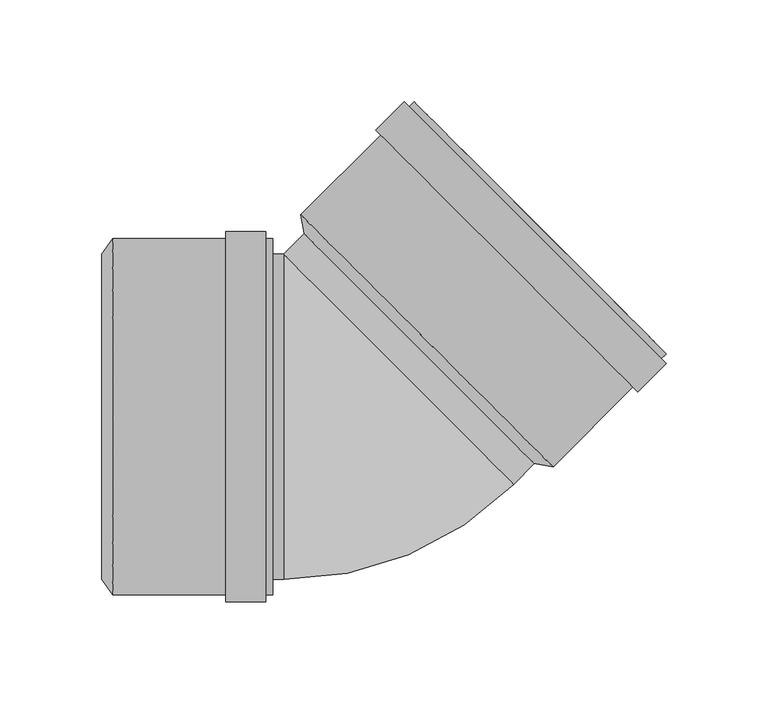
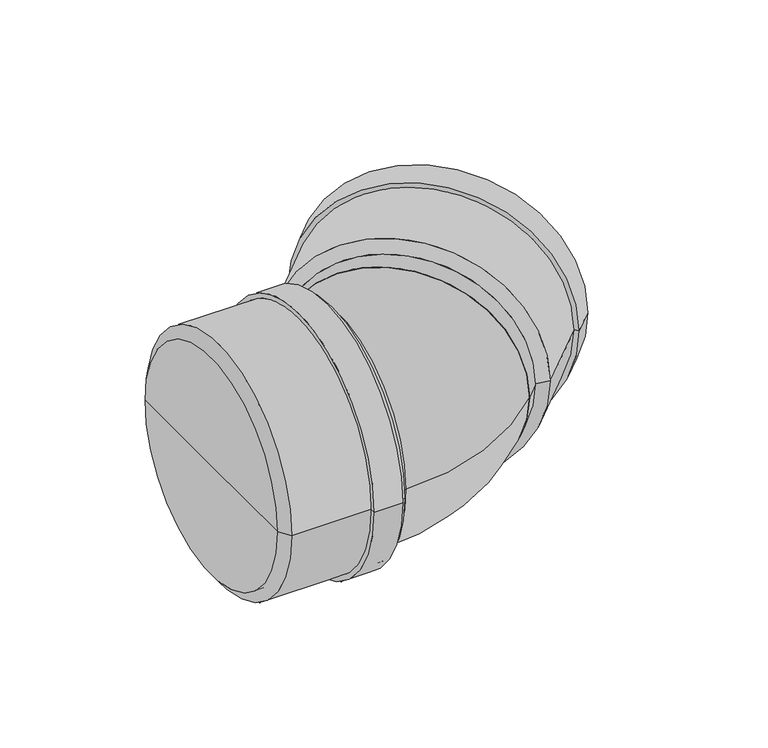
"""IFC4 building model written with IfcOpenShell, lengths in millimetres: pipe fitting geometry, pf_KGB : pf_KGB."""

from ifc_helpers import new_model, si_unit, point, frame, origin, origin_2d, place, context, project, spatial, polyline, circle_curve, ellipse_curve, trimmed, segment, composite_curve, outline, extrude, source, transform, mapped, element, save
from ifc_brep_helpers import plane_surface, cylinder_surface, revolved_surface, advanced_brep


def pipe_fitting_99fc2559(model_context):
    return source(origin(), model_context, "Body", "SolidModel", [
        advanced_brep(
        [(90.0854039, -23.0516811, 0.0), (-23.0516811, 90.0854039, 0.0), (-24.607316, 99.2777921, 0.0), (99.2777921, -24.607316, 0.0), (33.5168614, 33.5168614, 0.0), (154.8563851, 30.971277, 0.0), (30.971277, 154.8563851, 0.0), (36.3452886, 149.4823735, 0.0), (149.4823735, 36.3452886, 0.0), (28.567114, 152.452222, 0.0), (152.452222, 28.567114, 0.0), (26.1629509, 154.8563851, 0.0), (154.8563851, 26.1629509, 0.0), (12.2329473, 140.9263815, 0.0), (140.9263815, 12.2329473, 0.0), (14.6371104, 138.5222184, 0.0), (138.5222184, 14.6371104, 0.0), (93.9037805, -19.2333044, 0.0), (-19.2333044, 93.9037805, 0.0), (37.335238, 37.335238, 0.0)],
        [
            (0, 1, circle_curve(frame((33.5168614, 33.5168614, 0.0), z_axis=(0.7071067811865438, 0.7071067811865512, 0.0), x_axis=(-0.7071067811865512, 0.7071067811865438, 0.0)), 80.0)),
            (1, 2),
            (2, 3, circle_curve(frame((37.335238, 37.335238, 0.0), z_axis=(-0.7071067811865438, -0.7071067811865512, 0.0), x_axis=(-0.7071067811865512, 0.7071067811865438, 0.0)), 87.6)),
            (3, 0),
            (1, 0, circle_curve(frame((33.5168614, 33.5168614, 0.0), z_axis=(0.7071067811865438, 0.7071067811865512, 0.0), x_axis=(-0.7071067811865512, 0.7071067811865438, 0.0)), 80.0)),
            (3, 2, circle_curve(frame((37.335238, 37.335238, 0.0), z_axis=(-0.7071067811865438, -0.7071067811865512, 0.0), x_axis=(-0.7071067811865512, 0.7071067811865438, 0.0)), 87.6)),
            (4, 1),
            (0, 4),
            (5, 6, circle_curve(frame((92.913831, 92.913831, 0.0), z_axis=(0.7071067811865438, 0.7071067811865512, 0.0), x_axis=(-0.7071067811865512, 0.7071067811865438, 0.0)), 87.6)),
            (6, 7),
            (7, 8, circle_curve(frame((92.913831, 92.913831, 0.0), z_axis=(-0.7071067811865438, -0.7071067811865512, 0.0), x_axis=(-0.7071067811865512, 0.7071067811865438, 0.0)), 80.0)),
            (8, 5),
            (9, 10, circle_curve(frame((90.509668, 90.509668, 0.0), z_axis=(0.7071067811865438, 0.7071067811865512, 0.0), x_axis=(-0.7071067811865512, 0.7071067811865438, 0.0)), 87.6)),
            (10, 5),
            (5, 6, circle_curve(frame((92.913831, 92.913831, 0.0), z_axis=(-0.7071067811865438, -0.7071067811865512, 0.0), x_axis=(-0.7071067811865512, 0.7071067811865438, 0.0)), 87.6)),
            (6, 9),
            (11, 12, circle_curve(frame((90.509668, 90.509668, 0.0), z_axis=(0.7071067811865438, 0.7071067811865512, 0.0), x_axis=(-0.7071067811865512, 0.7071067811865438, 0.0)), 91.0)),
            (12, 10),
            (9, 11),
            (13, 14, circle_curve(frame((76.5796644, 76.5796644, 0.0), z_axis=(0.7071067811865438, 0.7071067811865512, 0.0), x_axis=(-0.7071067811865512, 0.7071067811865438, 0.0)), 91.0)),
            (14, 12),
            (11, 13),
            (15, 16, circle_curve(frame((76.5796644, 76.5796644, 0.0), z_axis=(0.7071067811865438, 0.7071067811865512, 0.0), x_axis=(-0.7071067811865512, 0.7071067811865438, 0.0)), 87.6)),
            (16, 14),
            (13, 15),
            (8, 7, circle_curve(frame((92.913831, 92.913831, 0.0), z_axis=(-0.7071067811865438, -0.7071067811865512, 0.0), x_axis=(-0.7071067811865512, 0.7071067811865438, 0.0)), 80.0)),
            (10, 9, circle_curve(frame((90.509668, 90.509668, 0.0), z_axis=(0.7071067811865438, 0.7071067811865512, 0.0), x_axis=(-0.7071067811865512, 0.7071067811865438, 0.0)), 87.6)),
            (12, 11, circle_curve(frame((90.509668, 90.509668, 0.0), z_axis=(0.7071067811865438, 0.7071067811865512, 0.0), x_axis=(-0.7071067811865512, 0.7071067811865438, 0.0)), 91.0)),
            (14, 13, circle_curve(frame((76.5796644, 76.5796644, 0.0), z_axis=(0.7071067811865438, 0.7071067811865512, 0.0), x_axis=(-0.7071067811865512, 0.7071067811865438, 0.0)), 91.0)),
            (16, 15, circle_curve(frame((76.5796644, 76.5796644, 0.0), z_axis=(0.7071067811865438, 0.7071067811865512, 0.0), x_axis=(-0.7071067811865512, 0.7071067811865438, 0.0)), 87.6)),
            (2, 15),
            (16, 3),
            (17, 18, circle_curve(frame((37.335238, 37.335238, 0.0), z_axis=(0.7071067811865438, 0.7071067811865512, 0.0), x_axis=(-0.7071067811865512, 0.7071067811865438, 0.0)), 80.0)),
            (18, 19),
            (19, 17),
            (18, 17, circle_curve(frame((37.335238, 37.335238, 0.0), z_axis=(0.7071067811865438, 0.7071067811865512, 0.0), x_axis=(-0.7071067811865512, 0.7071067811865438, 0.0)), 80.0)),
            (7, 18),
            (17, 8),
        ],
        [
            revolved_surface(polyline([(-24.607316, 99.2777921, 0.0), (-23.0516811, 90.0854039, 0.0)]), (33.5168614, 33.5168614, 0.0), (-0.7071067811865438, -0.7071067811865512, 0.0)),
            plane_surface(frame((33.5168614, 33.5168614, 0.0), z_axis=(-0.7071067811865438, -0.7071067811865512, 0.0), x_axis=(-0.7071067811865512, 0.7071067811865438, 0.0))),
            plane_surface(frame((92.913831, 92.913831, 0.0), z_axis=(0.7071067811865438, 0.7071067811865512, 0.0), x_axis=(-0.7071067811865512, 0.7071067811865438, 0.0))),
            cylinder_surface(frame((33.5168614, 33.5168614, 0.0), z_axis=(-0.7071067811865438, -0.7071067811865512, 0.0), x_axis=(-0.7071067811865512, 0.7071067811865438, 0.0)), 87.6),
            plane_surface(frame((90.509668, 90.509668, 0.0), z_axis=(0.7071067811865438, 0.7071067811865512, 0.0), x_axis=(-0.7071067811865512, 0.7071067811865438, 0.0))),
            cylinder_surface(frame((33.5168614, 33.5168614, 0.0), z_axis=(-0.7071067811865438, -0.7071067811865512, 0.0), x_axis=(-0.7071067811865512, 0.7071067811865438, 0.0)), 91.0),
            plane_surface(frame((76.5796644, 76.5796644, 0.0), z_axis=(-0.7071067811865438, -0.7071067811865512, 0.0), x_axis=(-0.7071067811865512, 0.7071067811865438, 0.0))),
            plane_surface(frame((37.335238, 37.335238, 0.0), z_axis=(0.7071067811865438, 0.7071067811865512, 0.0), x_axis=(-0.7071067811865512, 0.7071067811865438, 0.0))),
            revolved_surface(polyline([(-19.233304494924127, 93.90378049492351, 0.0), (36.345288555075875, 149.4823735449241, 0.0)]), (33.5168614, 33.5168614, 0.0), (-0.7071067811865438, -0.7071067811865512, 0.0)),
        ],
        [
            (0, [[1, 2, 3, 4]]),
            (0, [[5, -4, 6, -2]]),
            (1, [[7, -1, 8]]),
            (1, [[-8, -5, -7]]),
            (2, [[9, 10, 11, 12]]),
            (3, [[13, 14, 15, 16]]),
            (4, [[17, 18, -13, 19]]),
            (5, [[20, 21, -17, 22]]),
            (6, [[23, 24, -20, 25]]),
            (2, [[-15, -12, 26, -10]]),
            (3, [[27, -16, -9, -14]]),
            (4, [[28, -19, -27, -18]]),
            (5, [[29, -22, -28, -21]]),
            (6, [[30, -25, -29, -24]]),
            (3, [[-3, 31, -30, 32]]),
            (3, [[-6, -32, -23, -31]]),
            (7, [[33, 34, 35]]),
            (7, [[36, -35, -34]]),
            (8, [[-11, 37, -33, 38]]),
            (8, [[-26, -38, -36, -37]]),
        ],
    ),
        advanced_brep(
        [(-122.4, -80.0, 0.0), (-122.4, 80.0, 0.0), (-117.0, 87.6, 0.0), (-117.0, -87.6, 0.0), (-122.4, 0.0, 0.0), (-38.4, -87.6, 0.0), (-38.4, 87.6, 0.0), (-38.4, 80.0, 0.0), (-38.4, -80.0, 0.0), (-41.8, 87.6, 0.0), (-41.8, -87.6, 0.0), (-41.8, 91.0, 0.0), (-41.8, -91.0, 0.0), (-61.5, 91.0, 0.0), (-61.5, -91.0, 0.0), (-61.5, 87.6, 0.0), (-61.5, -87.6, 0.0), (-117.0, -80.0, 0.0), (-117.0, 80.0, 0.0), (-117.0, 0.0, 0.0)],
        [
            (0, 1, circle_curve(frame((-122.4, 0.0, 0.0), z_axis=(1.0, 0.0, 0.0), x_axis=(0.0, 1.0, 0.0)), 80.0)),
            (1, 2),
            (2, 3, circle_curve(frame((-117.0, 0.0, 0.0), z_axis=(-1.0, 0.0, 0.0), x_axis=(0.0, 1.0, 0.0)), 87.6)),
            (3, 0),
            (1, 0, circle_curve(frame((-122.4, 0.0, 0.0), z_axis=(1.0, 0.0, 0.0), x_axis=(0.0, 1.0, 0.0)), 80.0)),
            (3, 2, circle_curve(frame((-117.0, 0.0, 0.0), z_axis=(-1.0, 0.0, 0.0), x_axis=(0.0, 1.0, 0.0)), 87.6)),
            (4, 1),
            (0, 4),
            (5, 6, circle_curve(frame((-38.4, 0.0, 0.0), z_axis=(1.0, 0.0, 0.0), x_axis=(0.0, 1.0, 0.0)), 87.6)),
            (6, 7),
            (7, 8, circle_curve(frame((-38.4, 0.0, 0.0), z_axis=(-1.0, 0.0, 0.0), x_axis=(0.0, 1.0, 0.0)), 80.0)),
            (8, 5),
            (9, 10, circle_curve(frame((-41.8, 0.0, 0.0), z_axis=(1.0, 0.0, 0.0), x_axis=(0.0, 1.0, 0.0)), 87.6)),
            (10, 5),
            (5, 6, circle_curve(frame((-38.4, 0.0, 0.0), z_axis=(-1.0, 0.0, 0.0), x_axis=(0.0, 1.0, 0.0)), 87.6)),
            (6, 9),
            (11, 12, circle_curve(frame((-41.8, 0.0, 0.0), z_axis=(1.0, 0.0, 0.0), x_axis=(0.0, 1.0, 0.0)), 91.0)),
            (12, 10),
            (9, 11),
            (13, 14, circle_curve(frame((-61.5, 0.0, 0.0), z_axis=(1.0, 0.0, 0.0), x_axis=(0.0, 1.0, 0.0)), 91.0)),
            (14, 12),
            (11, 13),
            (15, 16, circle_curve(frame((-61.5, 0.0, 0.0), z_axis=(1.0, 0.0, 0.0), x_axis=(0.0, 1.0, 0.0)), 87.6)),
            (16, 14),
            (13, 15),
            (8, 7, circle_curve(frame((-38.4, 0.0, 0.0), z_axis=(-1.0, 0.0, 0.0), x_axis=(0.0, 1.0, 0.0)), 80.0)),
            (10, 9, circle_curve(frame((-41.8, 0.0, 0.0), z_axis=(1.0, 0.0, 0.0), x_axis=(0.0, 1.0, 0.0)), 87.6)),
            (12, 11, circle_curve(frame((-41.8, 0.0, 0.0), z_axis=(1.0, 0.0, 0.0), x_axis=(0.0, 1.0, 0.0)), 91.0)),
            (14, 13, circle_curve(frame((-61.5, 0.0, 0.0), z_axis=(1.0, 0.0, 0.0), x_axis=(0.0, 1.0, 0.0)), 91.0)),
            (16, 15, circle_curve(frame((-61.5, 0.0, 0.0), z_axis=(1.0, 0.0, 0.0), x_axis=(0.0, 1.0, 0.0)), 87.6)),
            (2, 15),
            (16, 3),
            (17, 18, circle_curve(frame((-117.0, 0.0, 0.0), z_axis=(1.0, 0.0, 0.0), x_axis=(0.0, 1.0, 0.0)), 80.0)),
            (18, 19),
            (19, 17),
            (18, 17, circle_curve(frame((-117.0, 0.0, 0.0), z_axis=(1.0, 0.0, 0.0), x_axis=(0.0, 1.0, 0.0)), 80.0)),
            (7, 18),
            (17, 8),
        ],
        [
            revolved_surface(polyline([(-117.0, 87.6, 0.0), (-122.4, 80.0, 0.0)]), (-122.4, 0.0, 0.0), (-1.0, 0.0, 0.0)),
            plane_surface(frame((-122.4, 0.0, 0.0), z_axis=(-1.0, 0.0, 0.0), x_axis=(0.0, 1.0, 0.0))),
            plane_surface(frame((-38.4, 0.0, 0.0), z_axis=(1.0, 0.0, 0.0), x_axis=(0.0, 1.0, 0.0))),
            cylinder_surface(frame((-122.4, 0.0, 0.0), z_axis=(-1.0, 0.0, 0.0), x_axis=(0.0, 1.0, 0.0)), 87.6),
            plane_surface(frame((-41.8, 0.0, 0.0), z_axis=(1.0, 0.0, 0.0), x_axis=(0.0, 1.0, 0.0))),
            cylinder_surface(frame((-122.4, 0.0, 0.0), z_axis=(-1.0, 0.0, 0.0), x_axis=(0.0, 1.0, 0.0)), 91.0),
            plane_surface(frame((-61.5, 0.0, 0.0), z_axis=(-1.0, 0.0, 0.0), x_axis=(0.0, 1.0, 0.0))),
            plane_surface(frame((-117.0, 0.0, 0.0), z_axis=(1.0, 0.0, 0.0), x_axis=(0.0, 1.0, 0.0))),
            revolved_surface(polyline([(-117.0, 80.0, 0.0), (-38.400000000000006, 80.0, 0.0)]), (-122.4, 0.0, 0.0), (-1.0, 0.0, 0.0)),
        ],
        [
            (0, [[1, 2, 3, 4]]),
            (0, [[5, -4, 6, -2]]),
            (1, [[7, -1, 8]]),
            (1, [[-8, -5, -7]]),
            (2, [[9, 10, 11, 12]]),
            (3, [[13, 14, 15, 16]]),
            (4, [[17, 18, -13, 19]]),
            (5, [[20, 21, -17, 22]]),
            (6, [[23, 24, -20, 25]]),
            (2, [[-15, -12, 26, -10]]),
            (3, [[27, -16, -9, -14]]),
            (4, [[28, -19, -27, -18]]),
            (5, [[29, -22, -28, -21]]),
            (6, [[30, -25, -29, -24]]),
            (3, [[-3, 31, -30, 32]]),
            (3, [[-6, -32, -23, -31]]),
            (7, [[33, 34, 35]]),
            (7, [[36, -35, -34]]),
            (8, [[-11, 37, -33, 38]]),
            (8, [[-26, -38, -36, -37]]),
        ],
    ),
        extrude(outline(composite_curve([segment(trimmed(circle_curve(origin_2d(), 80.0), [point((0.0, -80.0))], [point((0.0, 80.0))], False, "CARTESIAN"), True, "CONTINUOUS"), segment(trimmed(circle_curve(origin_2d(), 80.0), [point((0.0, 80.0))], [point((0.0, -80.0))], False, "CARTESIAN"), True, "CONTINUOUS")], self_intersect=False)), frame((23.4314575, 23.4314575, 0.0), z_axis=(0.7071067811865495, 0.7071067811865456, 0.0), x_axis=(0.0, 0.0, 1.0)), (0.0, 0.0, 1.0), 14.262915),
        extrude(outline(composite_curve([segment(trimmed(circle_curve(origin_2d(), 80.0), [point((-80.0, 0.0))], [point((80.0, 0.0))], False, "CARTESIAN"), True, "CONTINUOUS"), segment(trimmed(circle_curve(origin_2d(), 80.0), [point((80.0, 0.0))], [point((-80.0, 0.0))], False, "CARTESIAN"), True, "CONTINUOUS")], self_intersect=False)), frame((-117.0, 0.0, 0.0), z_axis=(1.0, 0.0, 0.0), x_axis=(0.0, 1.0, 0.0)), (0.0, 0.0, 1.0), 83.862915),
        advanced_brep(
        [(-33.137085, -80.0, 0.0), (-33.137085, 80.0, 0.0), (80.0, -33.137085, 0.0)],
        [
            (0, 1, circle_curve(frame((-33.137085, 0.0, 0.0), z_axis=(-1.0, 0.0, 0.0), x_axis=(0.0, 1.0, 0.0)), 80.0)),
            (1, 0, circle_curve(frame((-33.137085, 0.0, 0.0), z_axis=(-1.0, 0.0, 0.0), x_axis=(0.0, 1.0, 0.0)), 80.0)),
            (2, 1, circle_curve(frame((23.4314575, 23.4314575, 0.0), z_axis=(0.7071067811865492, 0.7071067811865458, 0.0), x_axis=(-0.7071067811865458, 0.7071067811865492, 0.0)), 80.0)),
            (1, 2, circle_curve(frame((23.4314575, 23.4314575, 0.0), z_axis=(0.7071067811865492, 0.7071067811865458, 0.0), x_axis=(-0.7071067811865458, 0.7071067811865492, 0.0)), 80.0)),
            (2, 0, circle_curve(frame((-33.137085, 80.0, 0.0), z_axis=(0.0, 0.0, -1.0), x_axis=(0.0, -1.0, 0.0)), 160.0)),
        ],
        [
            plane_surface(frame((-33.137085, 80.0, -14.8), z_axis=(-1.0, 0.0, 0.0), x_axis=(0.0, -1.0, 0.0))),
            plane_surface(frame((-33.137085, 80.0, -14.8), z_axis=(0.7071067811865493, 0.7071067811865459, 0.0), x_axis=(0.7071067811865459, -0.7071067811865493, 0.0))),
            revolved_surface(trimmed(ellipse_curve(frame((-33.137085, 0.0, 0.0), z_axis=(1.0, 0.0, 0.0), x_axis=(0.0, 1.0, 0.0)), 80.0, 80.0), [point((-33.137085, -80.0, 0.0))], [point((-33.137085, 80.0, 0.0))], True, "CARTESIAN"), (-33.137085, 80.0, -14.8), (0.0, 0.0, -1.0)),
            revolved_surface(trimmed(ellipse_curve(frame((-33.137085, 0.0, 0.0), z_axis=(1.0, 0.0, 0.0), x_axis=(0.0, 1.0, 0.0)), 80.0, 80.0), [point((-33.137085, 80.0, 0.0))], [point((-33.137085, -80.0, 0.0))], True, "CARTESIAN"), (-33.137085, 80.0, -14.8), (0.0, 0.0, -1.0)),
        ],
        [
            (0, [[1, 2]]),
            (1, [[3, 4]]),
            (2, [[5, -2, -3]]),
            (3, [[-1, -5, -4]]),
        ],
    ),
    ])


if __name__ == "__main__":
    model = new_model("IFC4")
    model_context = context("Model", 3, world=origin())
    ifc_project = project(units=[si_unit("LENGTHUNIT", "METRE", prefix="MILLI")], contexts=[model_context])
    site = spatial("IfcSite", under=ifc_project)
    building = spatial("IfcBuilding", under=site)
    placement = place(None, origin())
    pipe_fitting_shape = pipe_fitting_99fc2559(model_context)
    element("IfcPipeFitting", 1, ObjectType="pf_KGB : pf_KGB", at=placement, inside=building, context=model_context, shape_type="MappedRepresentation", body=[
        mapped(pipe_fitting_shape, transform((0.0, 0.0, 0.0), x_axis=(1.0, 0.0, 0.0), y_axis=(0.0, 1.0, 0.0), z_axis=(0.0, 0.0, 1.0))),
    ])
    save(model, "model.ifc")
